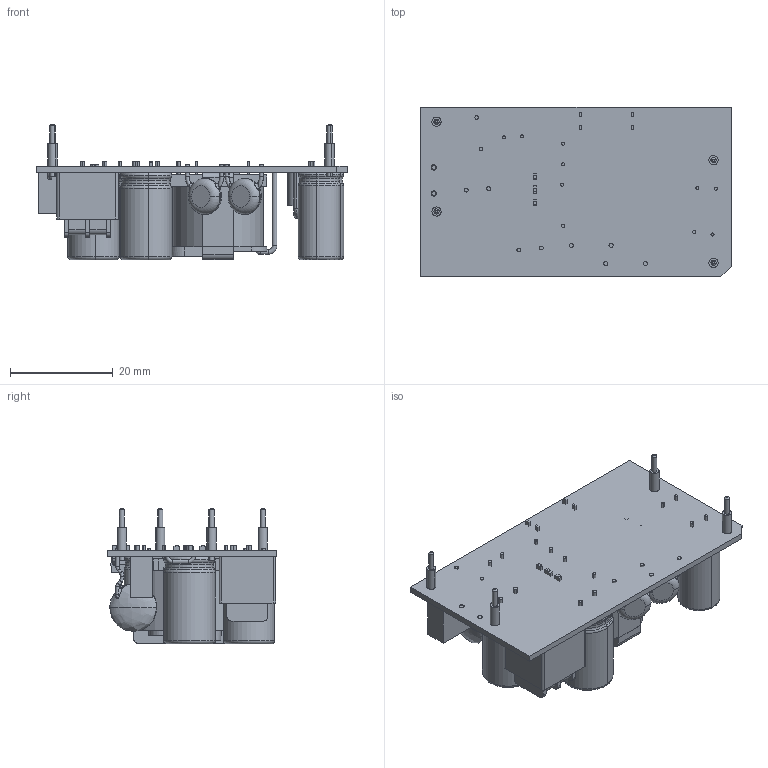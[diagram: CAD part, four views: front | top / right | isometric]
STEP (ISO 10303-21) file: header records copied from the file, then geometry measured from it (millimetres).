
FILE_DESCRIPTION (( 'STEP AP203' ), '1' );
FILE_NAME ('CFM20SXXX ¦¨«~¹Ï (M-B113-F)(V1.0)-1130709.STEP', '2024-08-20T00:33:35', ( 'cincon' ), ( '' ), 'SwSTEP 2.0', 'SolidWorks 2020', '' );
FILE_SCHEMA (( 'CONFIG_CONTROL_DESIGN' ));
Length unit declared in the file: millimetre
Products named in the file (15): D4; CFM20S變壓器-1100816; CFM40M UZ2 990210; CFM20-P PCB(V1.2)-1101126; CFM04 CY1示意圖; Electrolitic Capacitor Radial (5X11.8); G7205030099ｶ鷄IN 2018,10,30; Electrolitic Capacitor Radial 10x17; 8.2x17mm電容; CFM20 L1示意圖-1090826; 電晶體FCH10A20 TO-220F示意圖; CFM20SXXX 成品圖 (M-B113-F)(V1.0)-1130709; 電晶體 105,04,14
Assembly tree (18 placements, depth 2):
  CFM20SXXX 成品圖 (M-B113-F)(V1.0)-1130709
    CFM20-P PCB(V1.2)-1101126
    D4
    G7205030099ｶ鷄IN 2018,10,30  x4
    Electrolitic Capacitor Radial (5X11.8)
    電晶體 105,04,14
    電晶體FCH10A20 TO-220F示意圖
    8.2x17mm電容
    8.2x17mm電容
    Electrolitic Capacitor Radial 10x17
    Electrolitic Capacitor Radial 10x17
    CFM04 CY1示意圖  x2
    CFM40M UZ2 990210
    CFM20 L1示意圖-1090826
    CFM20S變壓器-1100816
Bounding box: 60.5 x 33.02 x 26.46 mm (x, y, z)
Volume: 13728.4 mm3; surface area: 13583.4 mm2
Topology: 23 solids, 23 shells, 721 faces, 1737 edges, 1095 vertices
Faces by surface type: plane 351, cylinder 222, torus 104, bspline 36, cone 8
Entity records: 22396 total; most frequent: CARTESIAN_POINT 4906, DIRECTION 3454, ORIENTED_EDGE 3202, EDGE_CURVE 1601, AXIS2_PLACEMENT_3D 1262, VERTEX_POINT 1013, VECTOR 930, LINE 930
